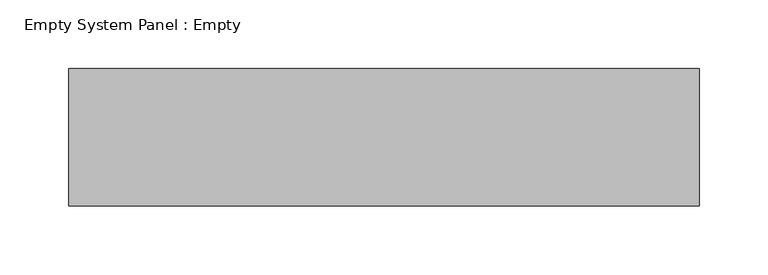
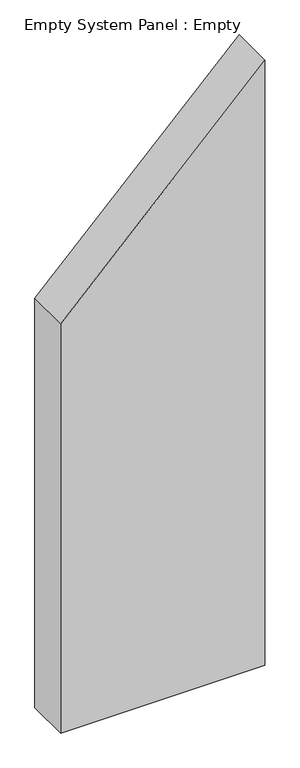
"""IFC4 building model written with IfcOpenShell, lengths in millimetres: plate geometry, Empty System Panel : Empty."""

from ifc_helpers import new_model, si_unit, frame, origin, place, context, project, spatial, polyline, outline, extrude, source, transform, mapped, element, save


def empty_system_panel_empty_0f261760(model_context):
    return source(origin(), model_context, "Body", "SweptSolid", [
        extrude(outline(polyline([(0.0, -229.6046705), (0.0, 229.6046705), (1437.2730186, 229.6046705), (972.9263096, -229.6046705), (0.0, -229.6046705)])), frame((0.0, -50.0, 0.0), z_axis=(0.0, 1.0, 0.0), x_axis=(0.0, 0.0, 1.0)), (0.0, 0.0, 1.0), 100.0),
    ])


if __name__ == "__main__":
    model = new_model("IFC4")
    model_context = context("Model", 3, world=origin())
    ifc_project = project(units=[si_unit("LENGTHUNIT", "METRE", prefix="MILLI")], contexts=[model_context])
    site = spatial("IfcSite", under=ifc_project)
    building = spatial("IfcBuilding", under=site)
    placement = place(None, origin())
    empty_system_panel_empty_shape = empty_system_panel_empty_0f261760(model_context)
    element("IfcPlate", 1, ObjectType="Empty System Panel : Empty", at=placement, inside=building, context=model_context, shape_type="MappedRepresentation", body=[
        mapped(empty_system_panel_empty_shape, transform((0.0, 0.0, 0.0), x_axis=(1.0, 0.0, 0.0), y_axis=(0.0, 1.0, 0.0), z_axis=(0.0, 0.0, 1.0))),
    ])
    save(model, "model.ifc")
